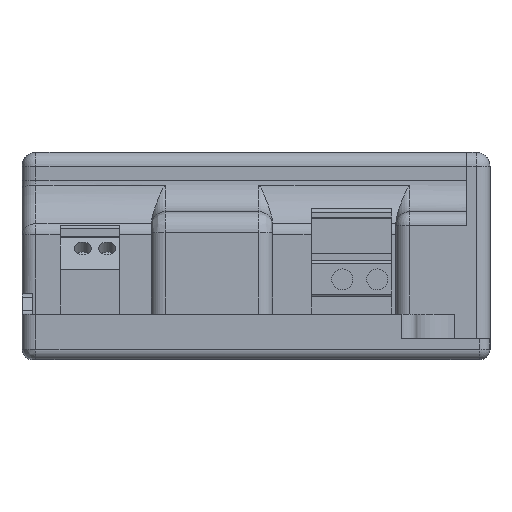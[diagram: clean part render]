
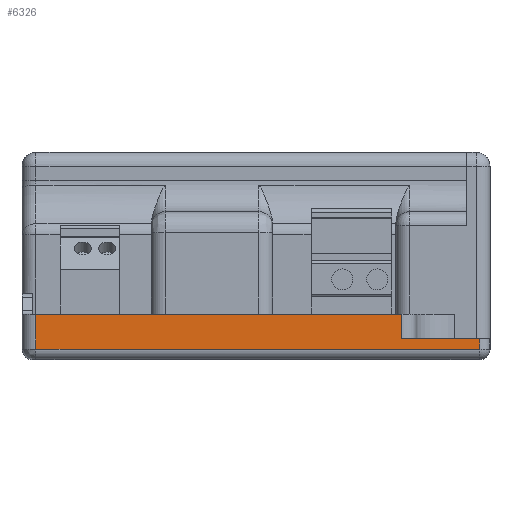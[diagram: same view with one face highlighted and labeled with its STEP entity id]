
A CAD part, left-side view. The second image highlights one B-rep face of the part: STEP entity #6326.
In plain terms, the highlighted planar face has unit normal (-1, 0, 0).
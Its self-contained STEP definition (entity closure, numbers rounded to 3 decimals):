
#190=DIRECTION('',(0.,1.,0.));
#191=VECTOR('',#190,11.1);
#192=CARTESIAN_POINT('',(-4.5,-3.5,3.));
#193=LINE('',#192,#191);
#278=DIRECTION('',(0.,0.,-1.));
#279=VECTOR('',#278,1.5);
#280=CARTESIAN_POINT('',(-4.5,-3.5,3.));
#281=LINE('',#280,#279);
#282=DIRECTION('',(0.,1.,0.));
#283=VECTOR('',#282,63.5);
#284=CARTESIAN_POINT('',(-4.5,-3.5,1.5));
#285=LINE('',#284,#283);
#286=DIRECTION('',(0.,0.,-1.));
#287=VECTOR('',#286,5.);
#288=CARTESIAN_POINT('',(-4.5,60.,6.5));
#289=LINE('',#288,#287);
#290=DIRECTION('',(0.,-1.,0.));
#291=VECTOR('',#290,52.4);
#292=CARTESIAN_POINT('',(-4.5,60.,6.5));
#293=LINE('',#292,#291);
#294=DIRECTION('',(0.,0.,1.));
#295=VECTOR('',#294,3.5);
#296=CARTESIAN_POINT('',(-4.5,7.6,3.));
#297=LINE('',#296,#295);
#5021=CARTESIAN_POINT('',(-4.5,60.,6.5));
#5022=CARTESIAN_POINT('',(-4.5,60.,1.5));
#5023=VERTEX_POINT('',#5021);
#5024=VERTEX_POINT('',#5022);
#5246=CARTESIAN_POINT('',(-4.5,7.6,3.));
#5248=VERTEX_POINT('',#5246);
#5645=CARTESIAN_POINT('',(-4.5,-3.5,3.));
#5646=CARTESIAN_POINT('',(-4.5,-3.5,1.5));
#5647=VERTEX_POINT('',#5645);
#5648=VERTEX_POINT('',#5646);
#5831=CARTESIAN_POINT('',(-4.5,7.6,6.5));
#5833=VERTEX_POINT('',#5831);
#6310=CARTESIAN_POINT('',(-4.5,62.,0.));
#6311=DIRECTION('',(-1.,0.,0.));
#6312=DIRECTION('',(0.,-1.,0.));
#6313=AXIS2_PLACEMENT_3D('',#6310,#6311,#6312);
#6314=PLANE('',#6313);
#6315=ORIENTED_EDGE('',*,*,#6195,.T.);
#6316=ORIENTED_EDGE('',*,*,#6099,.T.);
#6318=ORIENTED_EDGE('',*,*,#6317,.F.);
#6320=ORIENTED_EDGE('',*,*,#6319,.T.);
#6322=ORIENTED_EDGE('',*,*,#6321,.F.);
#6323=ORIENTED_EDGE('',*,*,#6237,.F.);
#6324=EDGE_LOOP('',(#6315,#6316,#6318,#6320,#6322,#6323));
#6325=FACE_OUTER_BOUND('',#6324,.F.);
#6099=EDGE_CURVE('',#5648,#5024,#285,.T.);
#6195=EDGE_CURVE('',#5647,#5648,#281,.T.);
#6237=EDGE_CURVE('',#5647,#5248,#193,.T.);
#6317=EDGE_CURVE('',#5023,#5024,#289,.T.);
#6319=EDGE_CURVE('',#5023,#5833,#293,.T.);
#6321=EDGE_CURVE('',#5248,#5833,#297,.T.);
#6326=ADVANCED_FACE('',(#6325),#6314,.T.);
